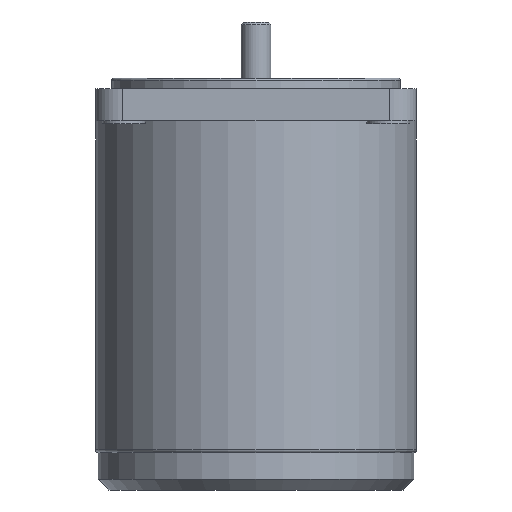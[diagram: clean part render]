
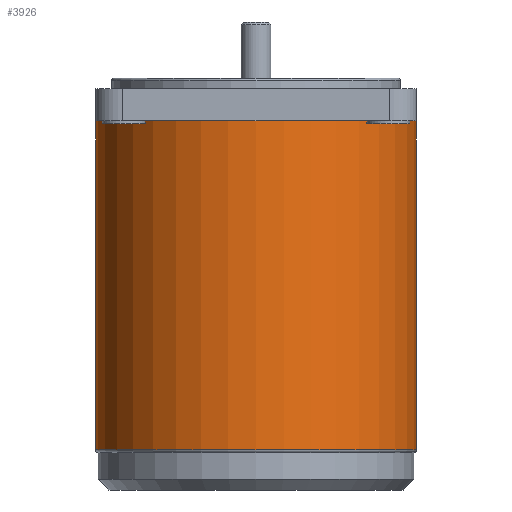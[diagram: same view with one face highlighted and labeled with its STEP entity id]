
A CAD part, front view. The second image highlights one B-rep face of the part: STEP entity #3926.
In plain terms, the highlighted cylindrical face has radius 30 mm (diameter 60 mm), a full revolution.
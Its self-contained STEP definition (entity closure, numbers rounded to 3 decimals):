
#3391=CARTESIAN_POINT('',(-20.656,21.756,26.5));
#3392=VERTEX_POINT('',#3391);
#3393=CARTESIAN_POINT('',(-21.639,20.778,27.5));
#3394=VERTEX_POINT('',#3393);
#3395=CARTESIAN_POINT('',(-20.656,21.756,26.5));
#3396=CARTESIAN_POINT('',(-20.849,21.573,26.5));
#3397=CARTESIAN_POINT('',(-21.168,21.262,26.595));
#3398=CARTESIAN_POINT('',(-21.534,20.889,26.97));
#3399=CARTESIAN_POINT('',(-21.639,20.778,27.319));
#3400=CARTESIAN_POINT('',(-21.639,20.778,27.5));
#3401=B_SPLINE_CURVE_WITH_KNOTS('',3,(#3395,#3396,#3397,#3398,#3399,#3400),.UNSPECIFIED.,.F.,.U.,(4,1,1,4),(-0.19,-0.108,-0.054,0.),.UNSPECIFIED.);
#3402=EDGE_CURVE('',#3392,#3394,#3401,.T.);
#3437=CARTESIAN_POINT('',(-21.639,20.778,69.0));
#3438=VERTEX_POINT('',#3437);
#3448=CARTESIAN_POINT('',(-21.639,20.778,27.5));
#3449=DIRECTION('',(0.0,0.0,1.0));
#3450=VECTOR('',#3449,41.5);
#3451=LINE('',#3448,#3450);
#3452=EDGE_CURVE('',#3394,#3438,#3451,.T.);
#3524=CARTESIAN_POINT('',(21.639,20.778,27.5));
#3525=VERTEX_POINT('',#3524);
#3533=CARTESIAN_POINT('',(20.656,21.756,26.5));
#3534=VERTEX_POINT('',#3533);
#3535=CARTESIAN_POINT('',(21.639,20.778,27.5));
#3536=CARTESIAN_POINT('',(21.639,20.778,27.32));
#3537=CARTESIAN_POINT('',(21.534,20.888,26.97));
#3538=CARTESIAN_POINT('',(21.169,21.26,26.595));
#3539=CARTESIAN_POINT('',(20.849,21.573,26.5));
#3540=CARTESIAN_POINT('',(20.656,21.756,26.5));
#3541=B_SPLINE_CURVE_WITH_KNOTS('',3,(#3535,#3536,#3537,#3538,#3539,#3540),.UNSPECIFIED.,.F.,.U.,(4,1,1,4),(-0.189,-0.135,-0.081,0.),.UNSPECIFIED.);
#3542=EDGE_CURVE('',#3525,#3534,#3541,.T.);
#3559=CARTESIAN_POINT('',(21.639,20.778,69.0));
#3560=VERTEX_POINT('',#3559);
#3568=CARTESIAN_POINT('',(21.639,20.778,69.0));
#3569=DIRECTION('',(0.0,0.0,-1.0));
#3570=VECTOR('',#3569,41.5);
#3571=LINE('',#3568,#3570);
#3572=EDGE_CURVE('',#3560,#3525,#3571,.T.);
#3584=CARTESIAN_POINT('',(5.41,29.508,26.5));
#3585=VERTEX_POINT('',#3584);
#3603=CARTESIAN_POINT('',(0.0,0.0,26.5));
#3604=DIRECTION('',(0.0,0.0,1.0));
#3605=DIRECTION('',(0.389,0.921,0.0));
#3606=AXIS2_PLACEMENT_3D('',#3603,#3604,#3605);
#3607=CIRCLE('',#3606,30.0);
#3608=EDGE_CURVE('',#3534,#3585,#3607,.T.);
#3664=CARTESIAN_POINT('',(0.,30.0,27.0));
#3665=VERTEX_POINT('',#3664);
#3666=CARTESIAN_POINT('',(5.41,29.508,26.5));
#3667=CARTESIAN_POINT('',(3.627,29.835,26.5));
#3668=CARTESIAN_POINT('',(1.819,29.999,26.768));
#3669=CARTESIAN_POINT('',(0.015,30.,26.998));
#3670=CARTESIAN_POINT('',(0.008,30.0,26.999));
#3671=CARTESIAN_POINT('',(0.,30.0,27.0));
#3672=B_SPLINE_CURVE_WITH_KNOTS('',3,(#3666,#3667,#3668,#3669,#3670,#3671),.UNSPECIFIED.,.F.,.U.,(4,2,4),(1.041,1.594,1.596),.UNSPECIFIED.);
#3673=EDGE_CURVE('',#3585,#3665,#3672,.T.);
#3691=CARTESIAN_POINT('',(-5.41,29.508,26.5));
#3692=VERTEX_POINT('',#3691);
#3700=CARTESIAN_POINT('',(0.0,0.0,26.5));
#3701=DIRECTION('',(0.0,0.0,1.0));
#3702=DIRECTION('',(-0.389,0.921,0.0));
#3703=AXIS2_PLACEMENT_3D('',#3700,#3701,#3702);
#3704=CIRCLE('',#3703,30.0);
#3705=EDGE_CURVE('',#3692,#3392,#3704,.T.);
#3750=CARTESIAN_POINT('',(0.0,30.0,27.0));
#3751=CARTESIAN_POINT('',(-0.008,30.0,26.999));
#3752=CARTESIAN_POINT('',(-0.015,30.,26.998));
#3753=CARTESIAN_POINT('',(-1.819,29.999,26.768));
#3754=CARTESIAN_POINT('',(-3.627,29.835,26.5));
#3755=CARTESIAN_POINT('',(-5.41,29.508,26.5));
#3756=B_SPLINE_CURVE_WITH_KNOTS('',3,(#3750,#3751,#3752,#3753,#3754,#3755),.UNSPECIFIED.,.F.,.U.,(4,2,4),(-0.002,0.0,0.553),.UNSPECIFIED.);
#3757=EDGE_CURVE('',#3665,#3692,#3756,.T.);
#3770=CARTESIAN_POINT('',(-30.0,0.0,69.0));
#3771=VERTEX_POINT('',#3770);
#3772=CARTESIAN_POINT('',(0.0,0.0,69.0));
#3773=DIRECTION('',(0.0,0.0,1.0));
#3774=DIRECTION('',(1.0,0.0,0.0));
#3775=AXIS2_PLACEMENT_3D('',#3772,#3773,#3774);
#3776=CIRCLE('',#3775,30.0);
#3777=EDGE_CURVE('',#3438,#3771,#3776,.T.);
#3830=CARTESIAN_POINT('',(30.0,0.0,69.0));
#3831=VERTEX_POINT('',#3830);
#3838=CARTESIAN_POINT('',(0.0,0.0,69.0));
#3839=DIRECTION('',(0.0,0.0,1.0));
#3840=DIRECTION('',(1.0,0.0,0.0));
#3841=AXIS2_PLACEMENT_3D('',#3838,#3839,#3840);
#3842=CIRCLE('',#3841,30.0);
#3843=EDGE_CURVE('',#3831,#3560,#3842,.T.);
#3882=CARTESIAN_POINT('',(0.0,0.0,0.0));
#3883=DIRECTION('',(0.0,0.0,1.0));
#3884=DIRECTION('',(-1.0,0.0,0.0));
#3885=AXIS2_PLACEMENT_3D('',#3882,#3883,#3884);
#3886=CYLINDRICAL_SURFACE('',#3885,30.0);
#3887=ORIENTED_EDGE('',*,*,#3572,.F.);
#3888=ORIENTED_EDGE('',*,*,#3843,.F.);
#3889=CARTESIAN_POINT('',(0.0,-30.0,69.0));
#3890=VERTEX_POINT('',#3889);
#3891=CARTESIAN_POINT('',(0.0,0.0,69.0));
#3892=DIRECTION('',(0.0,0.0,1.0));
#3893=DIRECTION('',(1.0,0.0,0.0));
#3894=AXIS2_PLACEMENT_3D('',#3891,#3892,#3893);
#3895=CIRCLE('',#3894,30.0);
#3896=EDGE_CURVE('',#3890,#3831,#3895,.T.);
#3897=ORIENTED_EDGE('',*,*,#3896,.F.);
#3898=CARTESIAN_POINT('',(0.0,0.0,69.0));
#3899=DIRECTION('',(0.0,0.0,1.0));
#3900=DIRECTION('',(1.0,0.0,0.0));
#3901=AXIS2_PLACEMENT_3D('',#3898,#3899,#3900);
#3902=CIRCLE('',#3901,30.0);
#3903=EDGE_CURVE('',#3771,#3890,#3902,.T.);
#3904=ORIENTED_EDGE('',*,*,#3903,.F.);
#3905=ORIENTED_EDGE('',*,*,#3777,.F.);
#3906=ORIENTED_EDGE('',*,*,#3452,.F.);
#3907=ORIENTED_EDGE('',*,*,#3402,.F.);
#3908=ORIENTED_EDGE('',*,*,#3705,.F.);
#3909=ORIENTED_EDGE('',*,*,#3757,.F.);
#3910=ORIENTED_EDGE('',*,*,#3673,.F.);
#3911=ORIENTED_EDGE('',*,*,#3608,.F.);
#3912=ORIENTED_EDGE('',*,*,#3542,.F.);
#3913=EDGE_LOOP('',(#3887,#3888,#3897,#3904,#3905,#3906,#3907,#3908,#3909,#3910,#3911,#3912));
#3914=FACE_OUTER_BOUND('',#3913,.T.);
#3915=CARTESIAN_POINT('',(-30.0,0.,7.5));
#3916=VERTEX_POINT('',#3915);
#3917=CARTESIAN_POINT('',(0.0,0.0,7.5));
#3918=DIRECTION('',(0.0,0.0,-1.0));
#3919=DIRECTION('',(1.0,0.0,0.0));
#3920=AXIS2_PLACEMENT_3D('',#3917,#3918,#3919);
#3921=CIRCLE('',#3920,30.0);
#3922=EDGE_CURVE('',#3916,#3916,#3921,.T.);
#3923=ORIENTED_EDGE('',*,*,#3922,.F.);
#3924=EDGE_LOOP('',(#3923));
#3925=FACE_BOUND('',#3924,.T.);
#3926=ADVANCED_FACE('',(#3914,#3925),#3886,.T.);
